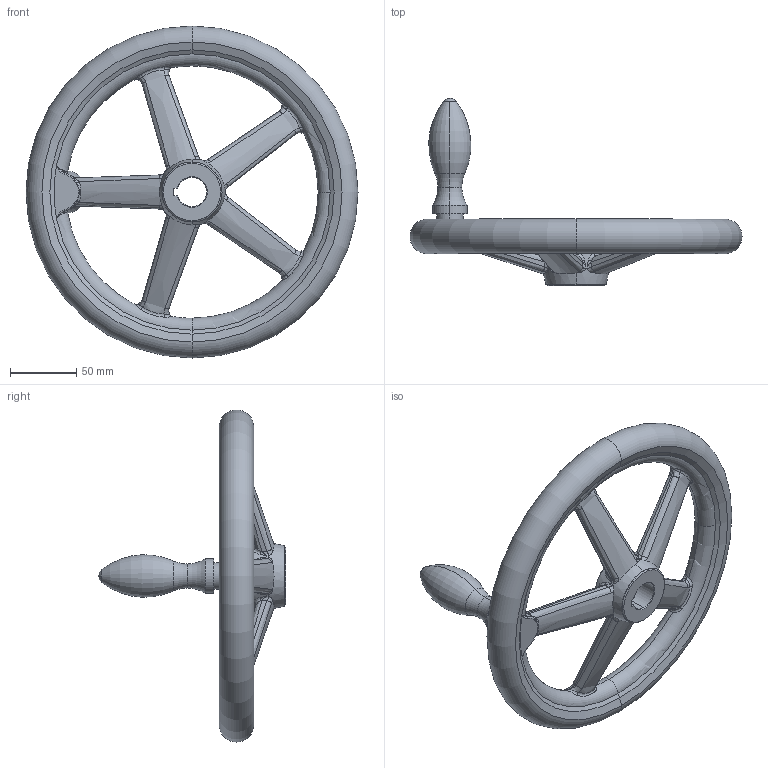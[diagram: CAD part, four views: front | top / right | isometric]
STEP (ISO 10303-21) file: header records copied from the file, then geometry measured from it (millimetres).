
FILE_DESCRIPTION (( 'STEP AP203' ), '1' );
FILE_NAME ('din950_d3_250x22.step', '2010-03-23T10:07:25', ( '_' ), ( '_' ), 'SwSTEP 2.0', 'SolidWorks 2010', '' );
FILE_SCHEMA (( 'CONFIG_CONTROL_DESIGN' ));
Length unit declared in the file: millimetre
Products named in the file (1): din950_d3_250x22
Bounding box: 250 x 141 x 250 mm (x, y, z)
Volume: 581583.1 mm3; surface area: 96905.3 mm2
Topology: 1 solids, 1 shells, 269 faces, 656 edges, 361 vertices
Faces by surface type: bspline 176, torus 25, plane 20, sphere 18, cone 18, cylinder 12
Entity records: 37523 total; most frequent: CARTESIAN_POINT 32326, ORIENTED_EDGE 1268, DIRECTION 742, EDGE_CURVE 634, VERTEX_POINT 361, AXIS2_PLACEMENT_3D 353, B_SPLINE_CURVE_WITH_KNOTS 339, EDGE_LOOP 275
